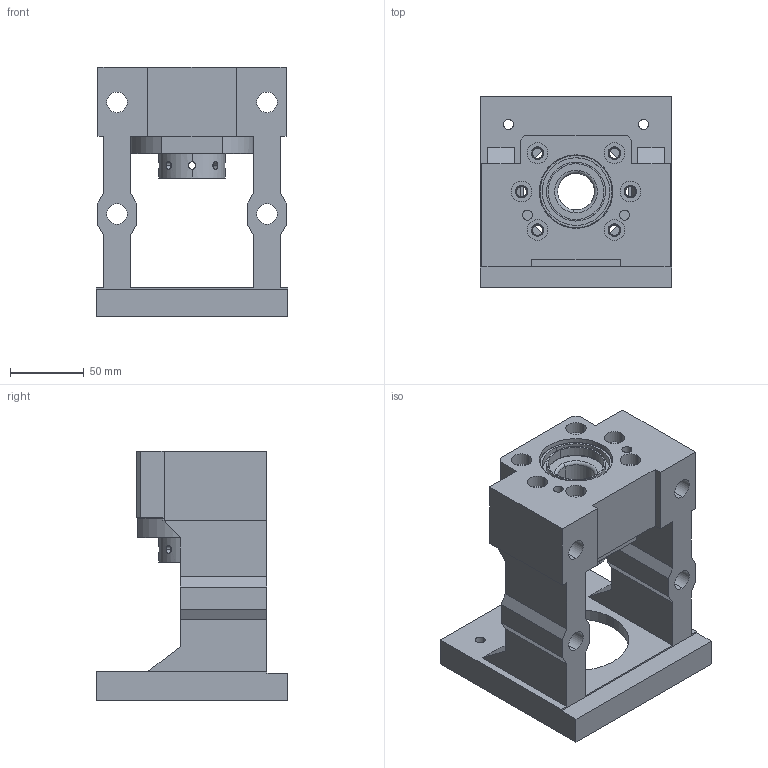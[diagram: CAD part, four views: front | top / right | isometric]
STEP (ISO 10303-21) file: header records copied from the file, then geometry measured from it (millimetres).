
FILE_DESCRIPTION (( 'STEP AP203' ), '1' );
FILE_NAME ('MBCS25-S.STEP', '2021-10-28T07:56:23', ( '' ), ( '' ), 'SwSTEP 2.0', 'SolidWorks 2018', '' );
FILE_SCHEMA (( 'CONFIG_CONTROL_DESIGN' ));
Length unit declared in the file: millimetre
Products named in the file (1): MBCS25-S
Bounding box: 130 x 130 x 170 mm (x, y, z)
Surface area: 152304.7 mm2 (no closed solid volume)
Topology: 0 solids, 10 shells, 237 faces, 640 edges, 417 vertices
Faces by surface type: cylinder 113, plane 78, cone 34, torus 12
Entity records: 8336 total; most frequent: CARTESIAN_POINT 2093, DIRECTION 1369, ORIENTED_EDGE 1167, EDGE_CURVE 636, AXIS2_PLACEMENT_3D 529, VERTEX_POINT 417, LINE 311, VECTOR 311
